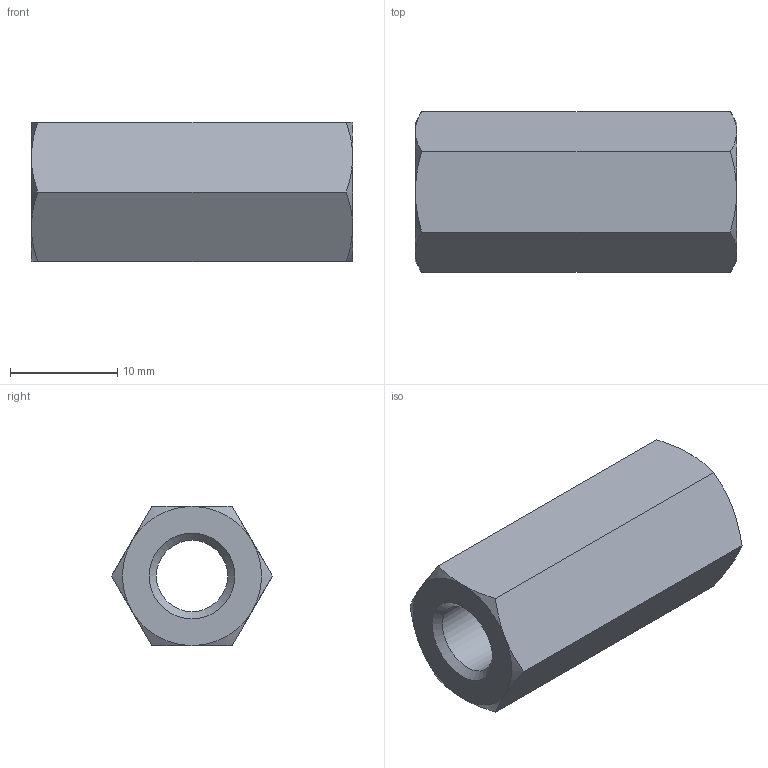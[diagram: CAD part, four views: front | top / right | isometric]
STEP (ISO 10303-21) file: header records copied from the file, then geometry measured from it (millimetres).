
FILE_DESCRIPTION( ( 'STEP AP203' ), '1' );
FILE_NAME( 'C:/Temp/Ganter_Step_05_03_2020/data/3_2/gn6220/gn6220_st/Spacer GN 6220-ST-M8-30-A.stp', '2020-03-13T05:42:32', ( 'License CC BY-ND 4.0' ), ( 'CADENAS' ), ' ', 'PARTsolutions', ' ' );
FILE_SCHEMA( ( 'CONFIG_CONTROL_DESIGN' ) );
Length unit declared in the file: millimetre
Products named in the file (1): _Spacer GN 6220-ST-M8-30-A
Bounding box: 30 x 15.01 x 13 mm (x, y, z)
Volume: 3334.8 mm3; surface area: 2171.7 mm2
Topology: 1 solids, 1 shells, 23 faces, 49 edges, 28 vertices
Faces by surface type: cone 14, plane 8, cylinder 1
Full cylindrical faces by diameter (mm): 6.647 x1
Entity records: 728 total; most frequent: CARTESIAN_POINT 234, ORIENTED_EDGE 92, DIRECTION 86, EDGE_CURVE 46, AXIS2_PLACEMENT_3D 40, EDGE_LOOP 28, VERTEX_POINT 28, FACE_OUTER_BOUND 24
